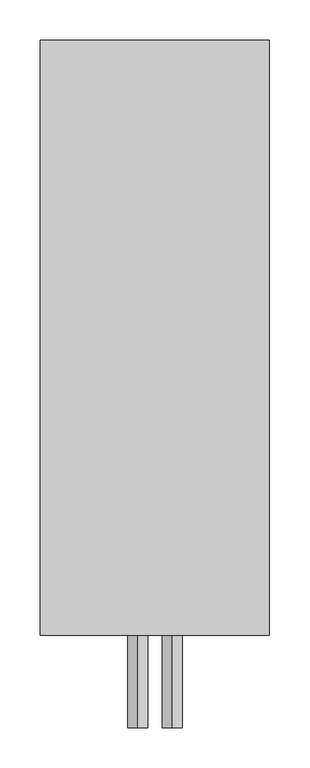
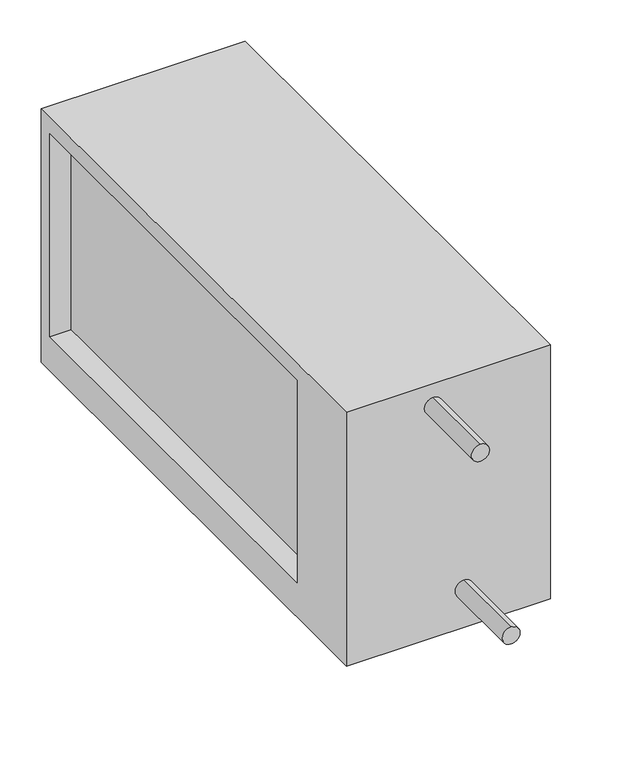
"""IFC4 building model written with IfcOpenShell, lengths in millimetres: proxy geometry, СВ_ВоздухоохладительВодяной_КанальныйПрямоугольный_200-1000_SPC-W : SPC-W-600x300-R."""

from ifc_helpers import new_model, si_unit, point, frame, frame_2d, origin, place, context, project, spatial, polyline, circle_curve, trimmed, segment, composite_curve, outline, extrude, source, transform, mapped, element, save


def mechanical_equipment_b0fa356c(model_context):
    return source(origin(), model_context, "Body", "SweptSolid", [
        extrude(outline(polyline([(-420.0, -200.0), (-420.0, 175.0), (320.0, 175.0), (320.0, -200.0), (-420.0, -200.0)]), holes=[polyline([(-300.0, 150.0), (-300.0, -150.0), (300.0, -150.0), (300.0, 150.0), (-300.0, 150.0)])]), frame((-142.5, 0.0, 0.0), z_axis=(1.0, 0.0, 0.0), x_axis=(0.0, 1.0, 0.0)), (0.0, 0.0, 1.0), 285.0),
        extrude(outline(composite_curve([segment(trimmed(circle_curve(frame_2d((-142.5, 21.5)), 12.5), [point((-130.0, 21.5))], [point((-155.0, 21.5))], False, "CARTESIAN"), True, "CONTINUOUS"), segment(trimmed(circle_curve(frame_2d((-142.5, 21.5)), 12.5), [point((-155.0, 21.5))], [point((-130.0, 21.5))], False, "CARTESIAN"), True, "CONTINUOUS")], self_intersect=False)), frame((0.0, -535.0, 0.0), z_axis=(0.0, 1.0, 0.0), x_axis=(0.0, 0.0, 1.0)), (0.0, 0.0, 1.0), 115.0),
        extrude(outline(composite_curve([segment(trimmed(circle_curve(frame_2d((142.5, -21.5)), 12.5), [point((155.0, -21.5))], [point((130.0, -21.5))], False, "CARTESIAN"), True, "CONTINUOUS"), segment(trimmed(circle_curve(frame_2d((142.5, -21.5)), 12.5), [point((130.0, -21.5))], [point((155.0, -21.5))], False, "CARTESIAN"), True, "CONTINUOUS")], self_intersect=False)), frame((0.0, -535.0, 0.0), z_axis=(0.0, 1.0, 0.0), x_axis=(0.0, 0.0, 1.0)), (0.0, 0.0, 1.0), 115.0),
        extrude(outline(composite_curve([segment(trimmed(circle_curve(frame_2d((0.0, -380.0)), 11.0), [point((-11.0, -380.0))], [point((11.0, -380.0))], False, "CARTESIAN"), True, "CONTINUOUS"), segment(trimmed(circle_curve(frame_2d((0.0, -380.0)), 11.0), [point((11.0, -380.0))], [point((-11.0, -380.0))], False, "CARTESIAN"), True, "CONTINUOUS")], self_intersect=False)), frame((0.0, 0.0, -220.0), z_axis=(0.0, 0.0, 1.0), x_axis=(1.0, 0.0, 0.0)), (0.0, 0.0, 1.0), 20.0),
        extrude(outline(polyline([(112.5, 300.0), (112.5, -300.0), (-112.5, -300.0), (-112.5, 300.0), (112.5, 300.0)])), frame((0.0, 0.0, -150.0), z_axis=(0.0, 0.0, 1.0), x_axis=(1.0, 0.0, 0.0)), (0.0, 0.0, 1.0), 300.0),
    ])


if __name__ == "__main__":
    model = new_model("IFC4")
    model_context = context("Model", 3, world=origin())
    ifc_project = project(units=[si_unit("LENGTHUNIT", "METRE", prefix="MILLI")], contexts=[model_context])
    site = spatial("IfcSite", under=ifc_project)
    building = spatial("IfcBuilding", under=site)
    placement = place(None, origin())
    mechanical_equipment_shape = mechanical_equipment_b0fa356c(model_context)
    element("IfcBuildingElementProxy", 1, Name="СВ_ВоздухоохладительВодяной_КанальныйПрямоугольный_200-1000_SPC-W : SPC-W-600x300-R", ObjectType="СВ_ВоздухоохладительВодяной_КанальныйПрямоугольный_200-1000_SPC-W : SPC-W-600x300-R", at=placement, inside=building, context=model_context, shape_type="MappedRepresentation", body=[
        mapped(mechanical_equipment_shape, transform((0.0, 0.0, 0.0), x_axis=(1.0, 0.0, 0.0), y_axis=(0.0, 1.0, 0.0), z_axis=(0.0, 0.0, 1.0))),
    ])
    save(model, "model.ifc")
